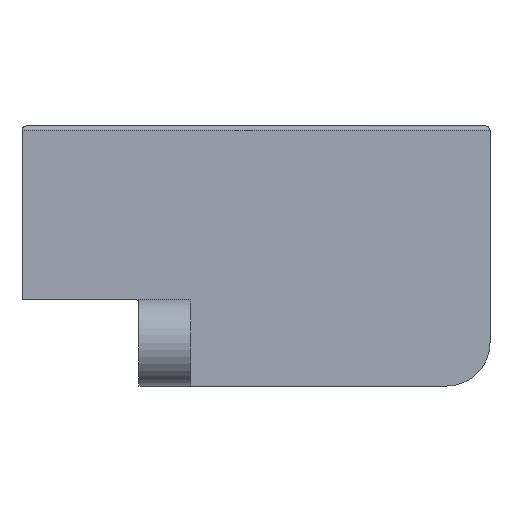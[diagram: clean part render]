
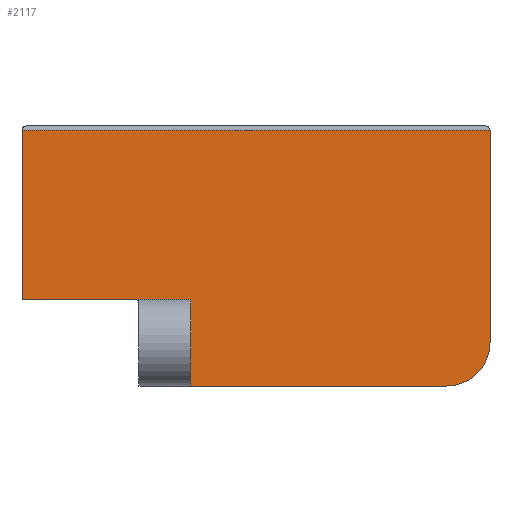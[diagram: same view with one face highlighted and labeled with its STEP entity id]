
A CAD part, front view. The second image highlights one B-rep face of the part: STEP entity #2117.
In plain terms, the highlighted planar face has unit normal (0, -1, 0).
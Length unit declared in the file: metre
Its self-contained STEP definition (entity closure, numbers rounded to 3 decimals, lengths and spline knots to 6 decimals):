
#44=PLANE('',#2264);
#200=LINE('',#3341,#417);
#221=LINE('',#3383,#438);
#226=LINE('',#3400,#443);
#229=LINE('',#3408,#446);
#233=LINE('',#3415,#450);
#279=LINE('',#3515,#496);
#280=LINE('',#3517,#497);
#281=LINE('',#3519,#498);
#417=VECTOR('',#2594,1.);
#438=VECTOR('',#2617,1.);
#443=VECTOR('',#2630,1.);
#446=VECTOR('',#2637,1.);
#450=VECTOR('',#2643,1.);
#496=VECTOR('',#2709,1.);
#497=VECTOR('',#2712,1.);
#498=VECTOR('',#2713,1.);
#735=ORIENTED_EDGE('',*,*,#1309,.F.);
#736=ORIENTED_EDGE('',*,*,#1361,.T.);
#737=ORIENTED_EDGE('',*,*,#1313,.F.);
#738=ORIENTED_EDGE('',*,*,#1362,.T.);
#739=ORIENTED_EDGE('',*,*,#1276,.F.);
#740=ORIENTED_EDGE('',*,*,#1297,.F.);
#741=ORIENTED_EDGE('',*,*,#1363,.T.);
#742=ORIENTED_EDGE('',*,*,#1305,.F.);
#743=ORIENTED_EDGE('',*,*,#1364,.F.);
#744=ORIENTED_EDGE('',*,*,#1365,.F.);
#1276=EDGE_CURVE('',#1594,#1595,#200,.T.);
#1297=EDGE_CURVE('',#1614,#1594,#221,.T.);
#1305=EDGE_CURVE('',#1622,#1615,#226,.T.);
#1309=EDGE_CURVE('',#1625,#1626,#229,.T.);
#1313=EDGE_CURVE('',#1628,#1629,#233,.T.);
#1361=EDGE_CURVE('',#1625,#1629,#1704,.T.);
#1362=EDGE_CURVE('',#1628,#1595,#279,.F.);
#1363=EDGE_CURVE('',#1614,#1615,#1705,.F.);
#1364=EDGE_CURVE('',#1672,#1622,#280,.T.);
#1365=EDGE_CURVE('',#1626,#1672,#281,.T.);
#1594=VERTEX_POINT('',#3340);
#1595=VERTEX_POINT('',#3342);
#1614=VERTEX_POINT('',#3382);
#1615=VERTEX_POINT('',#3386);
#1622=VERTEX_POINT('',#3399);
#1625=VERTEX_POINT('',#3407);
#1626=VERTEX_POINT('',#3409);
#1628=VERTEX_POINT('',#3416);
#1629=VERTEX_POINT('',#3417);
#1672=VERTEX_POINT('',#3518);
#1704=CIRCLE('',#2265,0.01);
#1705=CIRCLE('',#2266,0.001);
#1787=EDGE_LOOP('',(#735,#736,#737,#738,#739,#740,#741,#742,#743,#744));
#1917=FACE_BOUND('',#1787,.T.);
#2117=ADVANCED_FACE('',(#1917),#44,.T.);
#2264=AXIS2_PLACEMENT_3D('',#3513,#2705,#2706);
#2265=AXIS2_PLACEMENT_3D('',#3514,#2707,#2708);
#2266=AXIS2_PLACEMENT_3D('',#3516,#2710,#2711);
#2594=DIRECTION('',(0.,0.,1.));
#2617=DIRECTION('',(-1.,0.,0.));
#2630=DIRECTION('',(0.,0.,-1.));
#2637=DIRECTION('',(-1.,0.,0.));
#2643=DIRECTION('',(0.,0.,-1.));
#2705=DIRECTION('',(0.,-1.,0.));
#2706=DIRECTION('',(1.,0.,0.));
#2707=DIRECTION('',(0.,-1.,0.));
#2708=DIRECTION('',(0.,0.,-1.));
#2709=DIRECTION('',(1.,0.,0.));
#2710=DIRECTION('',(0.,-1.,0.));
#2711=DIRECTION('',(0.,0.,-1.));
#2712=DIRECTION('',(-1.,0.,0.));
#2713=DIRECTION('',(0.,0.,1.));
#3340=CARTESIAN_POINT('',(-0.027,-0.253,-0.03));
#3341=CARTESIAN_POINT('',(-0.027,-0.253,-0.015));
#3342=CARTESIAN_POINT('',(-0.027,-0.253,0.009));
#3382=CARTESIAN_POINT('',(-0.001,-0.253,-0.03));
#3383=CARTESIAN_POINT('',(-0.0235,-0.253,-0.03));
#3386=CARTESIAN_POINT('',(0.,-0.253,-0.031));
#3399=CARTESIAN_POINT('',(0.,-0.253,-0.03));
#3400=CARTESIAN_POINT('',(0.,-0.253,-0.02));
#3407=CARTESIAN_POINT('',(0.071,-0.253,-0.05));
#3408=CARTESIAN_POINT('',(0.0405,-0.253,-0.05));
#3409=CARTESIAN_POINT('',(0.012,-0.253,-0.05));
#3415=CARTESIAN_POINT('',(0.081,-0.253,-0.0335));
#3416=CARTESIAN_POINT('',(0.081,-0.253,0.009));
#3417=CARTESIAN_POINT('',(0.081,-0.253,-0.04));
#3513=CARTESIAN_POINT('',(0.027,-0.253,-0.02));
#3514=CARTESIAN_POINT('',(0.071,-0.253,-0.04));
#3515=CARTESIAN_POINT('',(0.027,-0.253,0.009));
#3516=CARTESIAN_POINT('',(-0.001,-0.253,-0.031));
#3517=CARTESIAN_POINT('',(0.012,-0.253,-0.03));
#3518=CARTESIAN_POINT('',(0.012,-0.253,-0.03));
#3519=CARTESIAN_POINT('',(0.012,-0.253,-0.04));
